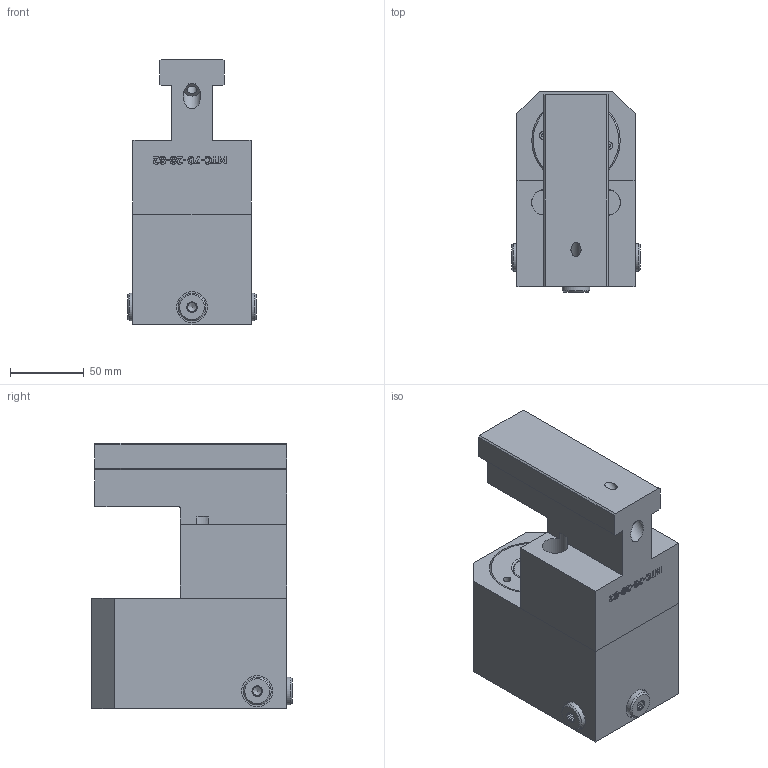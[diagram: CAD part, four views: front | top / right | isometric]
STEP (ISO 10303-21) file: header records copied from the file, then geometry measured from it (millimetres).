
FILE_DESCRIPTION(/* description */ (''),/* implementation_level */ '2;1');
FILE_NAME(/* name */ 'S:\EASCN Vault\Designs\Standard Part\T-SLOT\MTC CLAMPS\MTC-70\MTC70-28-XX_(20200507).stp',/* time_stamp */ '2020-05-07T16:00:58+08:00',/* author */ ('yue.yang'),/* organization */ (''),/* preprocessor_version */ 'ST-DEVELOPER v17',/* originating_system */ 'Autodesk Inventor 2019',/* authorisation */ '');
FILE_SCHEMA (('AUTOMOTIVE_DESIGN { 1 0 10303 214 3 1 1 }'));
Length unit declared in the file: millimetre
Products named in the file (1): MTC70-28-XX_Shrinkwrap_1
Bounding box: 87.2 x 135.6 x 180 mm (x, y, z)
Volume: 1191757.5 mm3; surface area: 178724.3 mm2
Topology: 11 solids, 11 shells, 427 faces, 1164 edges, 798 vertices
Faces by surface type: plane 220, bspline 90, cylinder 69, cone 35, torus 12, sphere 1
Full cylindrical faces by diameter (mm): 2 x2, 5 x1, 5.2 x2, 6 x3, 6.8 x1, 11.2 x3, 11.445 x4, 11.6 x3, 12 x1, 13.157 x3, 16.4 x3, 16.8 x3, 17.294 x2, 18.8 x3, 20 x2, 20.2 x2, 21 x5, 27.95 x1, 28.1 x1, 30 x2, 30.6 x2, 32 x2, 34.5 x1, 40.5 x1, 49.97 x2, 50.02 x1, 51 x1, 60 x2, 61 x1
Entity records: 14678 total; most frequent: CARTESIAN_POINT 3714, ORIENTED_EDGE 2316, DIRECTION 1951, EDGE_CURVE 1158, VERTEX_POINT 798, AXIS2_PLACEMENT_3D 692, LINE 567, VECTOR 567
